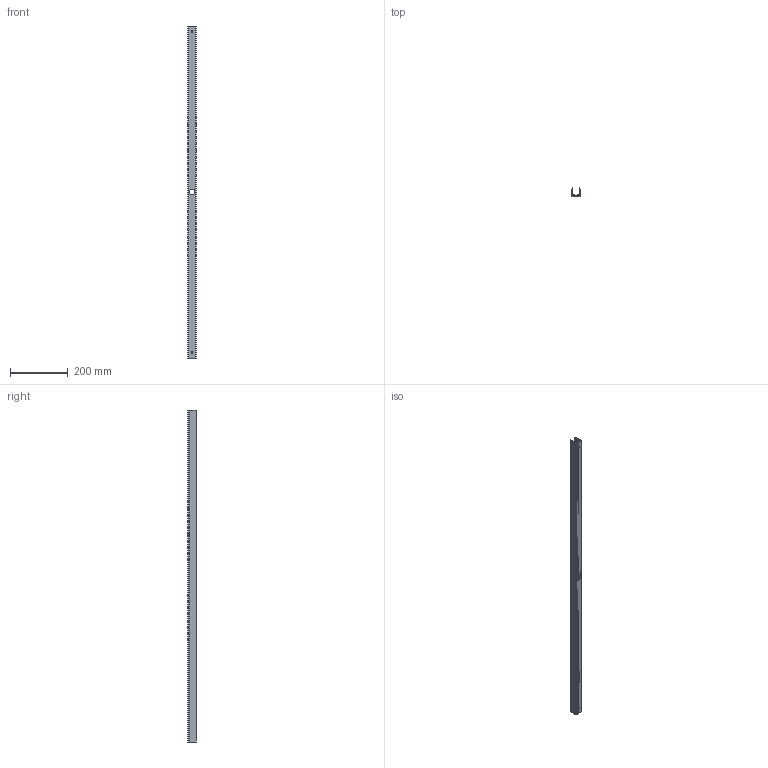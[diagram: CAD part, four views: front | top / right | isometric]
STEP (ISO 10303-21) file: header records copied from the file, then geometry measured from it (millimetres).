
FILE_DESCRIPTION(/* description */ ('Unknown'),/* implementation_level */ '2;1');
FILE_NAME(/* name */ '98473',/* time_stamp */ '2023-02-07T04:35:05-05:00',/* author */ ('Unknown'),/* organization */ ('Unknown'),/* preprocessor_version */ 'ST-DEVELOPER v18.1',/* originating_system */ 'Solid Edge',/* authorisation */ 'Unknown');
FILE_SCHEMA (('AUTOMOTIVE_DESIGN {1 0 10303 214 3 1 1}'));
Length unit declared in the file: millimetre
Products named in the file (1): L-PR0047
Bounding box: 28 x 29.79 x 1153 mm (x, y, z)
Volume: 178363.5 mm3; surface area: 231708.7 mm2
Topology: 1 solids, 1 shells, 103 faces, 312 edges, 208 vertices
Faces by surface type: cylinder 60, plane 43
Full cylindrical faces by diameter (mm): 6 x2, 20 x1
Entity records: 3584 total; most frequent: CARTESIAN_POINT 767, ORIENTED_EDGE 606, DIRECTION 578, EDGE_CURVE 303, AXIS2_PLACEMENT_3D 208, VERTEX_POINT 203, LINE 162, VECTOR 162
